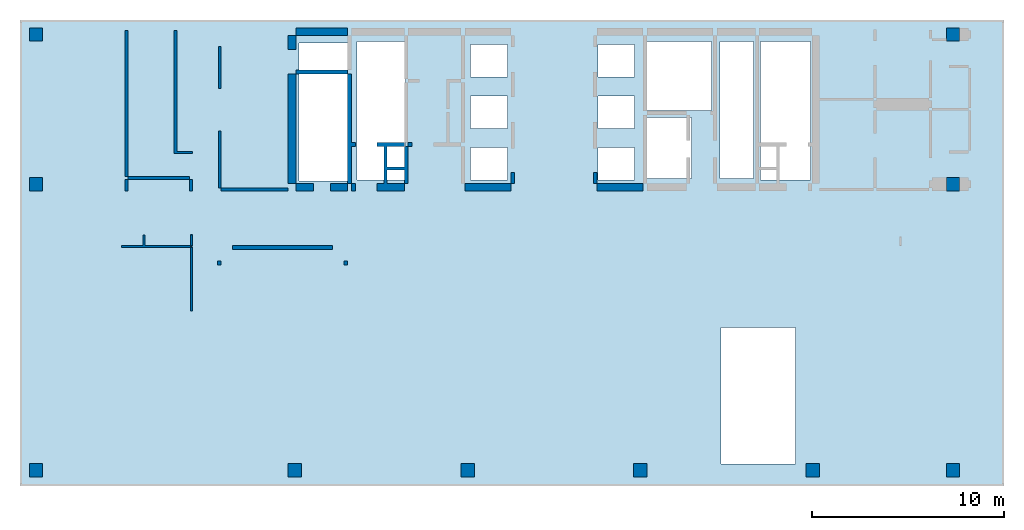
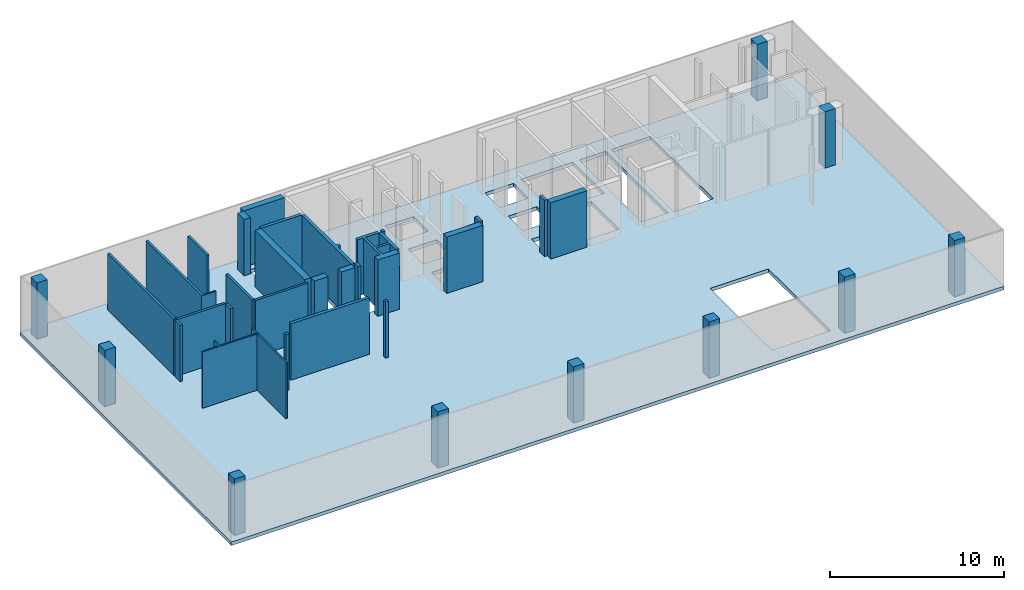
# One storey, part 1 of 4: 28 walls, 10 columns, 1 slab.
"""IFC4 building model written with IfcOpenShell, lengths in millimetres."""

from ifc_helpers import new_model, si_unit, frame, origin, place, context, project, spatial, triangles, element, save


model = new_model("IFC4")

# Units and contexts
model_context = context("Model", 3, precision=0.001, world=origin())
ifc_project = project(units=[si_unit("LENGTHUNIT", "METRE", prefix="MILLI"), si_unit("AREAUNIT", "SQUARE_METRE"), si_unit("VOLUMEUNIT", "CUBIC_METRE")], contexts=[model_context])

# Site, building, storey
site_placement = place(None, origin())
site = spatial("IfcSite", under=ifc_project, at=site_placement, Name="Site", CompositionType="ELEMENT")
building_placement = place(site_placement, origin())
building = spatial("IfcBuilding", under=site, at=building_placement, Name="INNOCEAN", CompositionType="ELEMENT")
storey_placement = place(building_placement, frame((0.0, 0.0, 63800.0)))
storey = spatial("IfcBuildingStorey", under=building, at=storey_placement, Name="F15", CompositionType="ELEMENT", Elevation=63800.0)

# Columns
column_1_placement = place(storey_placement, origin())
element("IfcColumn", 1, at=column_1_placement, inside=storey, Name="F15_Columns_F15_001", context=model_context, shape_type="Tessellation", body=[
    triangles([(40114.8, 2023.7, 0.0), (40114.8, 2023.7, 3950.0), (40114.8, 2722.3, 0.0), (40114.8, 2722.3, 3950.0), (40813.0, 2023.7, 3950.0), (40813.0, 2023.7, 0.0), (40813.0, 2722.3, 0.0), (40813.0, 2722.3, 3950.0)], [[1, 2, 3], [3, 2, 4], [5, 6, 7], [5, 7, 8], [6, 5, 1], [1, 5, 2], [8, 7, 3], [8, 3, 4], [3, 7, 1], [1, 7, 6], [8, 4, 2], [8, 2, 5]], closed=True),
])
column_2_placement = place(storey_placement, origin())
element("IfcColumn", 2, at=column_2_placement, inside=storey, Name="F15_Columns_F15_002", context=model_context, shape_type="Tessellation", body=[
    triangles([(47413.4, 24721.0, 0.0), (47413.4, 24721.0, 3950.0), (47413.4, 25419.5, 0.0), (47413.4, 25419.5, 3950.0), (48111.6, 24721.0, 3950.0), (48111.6, 24721.0, 0.0), (48111.6, 25419.5, 0.0), (48111.6, 25419.5, 3950.0)], [[1, 2, 3], [3, 2, 4], [5, 6, 7], [5, 7, 8], [6, 5, 1], [1, 5, 2], [8, 7, 3], [8, 3, 4], [1, 3, 6], [3, 7, 6], [4, 2, 5], [8, 4, 5]], closed=True),
])
column_3_placement = place(storey_placement, origin())
element("IfcColumn", 3, at=column_3_placement, inside=storey, Name="F15_Columns_F15_003", context=model_context, shape_type="Tessellation", body=[
    triangles([(47413.4, 16922.4, 0.0), (47413.4, 16922.4, 3950.0), (47413.4, 17620.9, 0.0), (47413.4, 17620.9, 3950.0), (48111.6, 16922.4, 3950.0), (48111.6, 16922.4, 0.0), (48111.6, 17620.9, 0.0), (48111.6, 17620.9, 3950.0)], [[1, 2, 3], [3, 2, 4], [5, 6, 7], [5, 7, 8], [6, 5, 1], [1, 5, 2], [8, 7, 3], [8, 3, 4], [1, 3, 6], [3, 7, 6], [4, 2, 5], [8, 4, 5]], closed=True),
])
column_4_placement = place(storey_placement, origin())
element("IfcColumn", 4, at=column_4_placement, inside=storey, Name="F15_Columns_F15_004", context=model_context, shape_type="Tessellation", body=[
    triangles([(13129.0, 2023.7, 0.0), (13129.0, 2023.7, 3950.0), (13129.0, 2722.3, 0.0), (13129.0, 2722.3, 3950.0), (13827.2, 2023.7, 3950.0), (13827.2, 2023.7, 0.0), (13827.2, 2722.3, 0.0), (13827.2, 2722.3, 3950.0)], [[1, 2, 3], [3, 2, 4], [5, 6, 7], [5, 7, 8], [6, 5, 1], [1, 5, 2], [8, 7, 3], [8, 3, 4], [3, 7, 1], [1, 7, 6], [8, 4, 2], [8, 2, 5]], closed=True),
])
column_5_placement = place(storey_placement, origin())
element("IfcColumn", 5, at=column_5_placement, inside=storey, Name="F15_Columns_F15_005", context=model_context, shape_type="Tessellation", body=[
    triangles([(47413.4, 2023.7, 0.0), (47413.4, 2023.7, 3950.0), (47413.4, 2722.3, 0.0), (47413.4, 2722.3, 3950.0), (48111.6, 2023.7, 3950.0), (48111.6, 2023.7, 0.0), (48111.6, 2722.3, 0.0), (48111.6, 2722.3, 3950.0)], [[1, 2, 3], [3, 2, 4], [5, 6, 7], [5, 7, 8], [6, 5, 1], [1, 5, 2], [8, 7, 3], [8, 3, 4], [3, 7, 1], [1, 7, 6], [8, 4, 2], [8, 2, 5]], closed=True),
])
column_6_placement = place(storey_placement, origin())
element("IfcColumn", 6, at=column_6_placement, inside=storey, Name="F15_Columns_F15_006", context=model_context, shape_type="Tessellation", body=[
    triangles([(-363.9, 2023.7, 0.0), (-363.9, 2023.7, 3950.0), (-363.9, 2722.3, 0.0), (-363.9, 2722.3, 3950.0), (334.3, 2023.7, 3950.0), (334.3, 2023.7, 0.0), (334.3, 2722.3, 0.0), (334.3, 2722.3, 3950.0)], [[1, 2, 3], [3, 2, 4], [5, 6, 7], [5, 7, 8], [6, 5, 1], [1, 5, 2], [8, 7, 3], [8, 3, 4], [3, 7, 1], [1, 7, 6], [8, 4, 2], [8, 2, 5]], closed=True),
])
column_7_placement = place(storey_placement, origin())
element("IfcColumn", 7, at=column_7_placement, inside=storey, Name="F15_Columns_F15_007", context=model_context, shape_type="Tessellation", body=[
    triangles([(-363.9, 24721.0, 0.0), (-363.9, 24721.0, 3950.0), (-363.9, 25419.5, 0.0), (-363.9, 25419.5, 3950.0), (334.3, 24721.0, 3950.0), (334.3, 24721.0, 0.0), (334.3, 25419.5, 0.0), (334.3, 25419.5, 3950.0)], [[1, 2, 3], [3, 2, 4], [5, 6, 7], [5, 7, 8], [6, 5, 1], [1, 5, 2], [8, 7, 3], [8, 3, 4], [3, 7, 1], [1, 7, 6], [8, 4, 2], [8, 2, 5]], closed=True),
])
column_8_placement = place(storey_placement, origin())
element("IfcColumn", 8, at=column_8_placement, inside=storey, Name="F15_Columns_F15_008", context=model_context, shape_type="Tessellation", body=[
    triangles([(31128.0, 2023.7, 0.0), (31128.0, 2023.7, 3950.0), (31128.0, 2722.3, 0.0), (31128.0, 2722.3, 3950.0), (31826.2, 2023.7, 3950.0), (31826.2, 2023.7, 0.0), (31826.2, 2722.3, 0.0), (31826.2, 2722.3, 3950.0)], [[1, 2, 3], [3, 2, 4], [5, 6, 7], [5, 7, 8], [6, 5, 1], [1, 5, 2], [8, 7, 3], [8, 3, 4], [3, 7, 1], [1, 7, 6], [8, 4, 2], [8, 2, 5]], closed=True),
])
column_9_placement = place(storey_placement, origin())
element("IfcColumn", 9, at=column_9_placement, inside=storey, Name="F15_Columns_F15_009", context=model_context, shape_type="Tessellation", body=[
    triangles([(22128.5, 2023.7, 0.0), (22128.5, 2023.7, 3950.0), (22128.5, 2722.3, 0.0), (22128.5, 2722.3, 3950.0), (22826.7, 2023.7, 3950.0), (22826.7, 2023.7, 0.0), (22826.7, 2722.3, 0.0), (22826.7, 2722.3, 3950.0)], [[1, 2, 3], [3, 2, 4], [5, 6, 7], [5, 7, 8], [6, 5, 1], [1, 5, 2], [8, 7, 3], [8, 3, 4], [3, 7, 1], [1, 7, 6], [8, 4, 2], [8, 2, 5]], closed=True),
])
column_10_placement = place(storey_placement, origin())
element("IfcColumn", 10, at=column_10_placement, inside=storey, Name="F15_Columns_F15_010", context=model_context, shape_type="Tessellation", body=[
    triangles([(-363.9, 16922.4, 0.0), (-363.9, 16922.4, 3950.0), (-363.9, 17620.9, 0.0), (-363.9, 17620.9, 3950.0), (334.3, 16922.4, 3950.0), (334.3, 16922.4, 0.0), (334.3, 17620.9, 0.0), (334.3, 17620.9, 3950.0)], [[1, 2, 3], [3, 2, 4], [5, 6, 7], [5, 7, 8], [6, 5, 1], [1, 5, 2], [8, 7, 3], [8, 3, 4], [3, 7, 1], [1, 7, 6], [8, 4, 2], [8, 2, 5]], closed=True),
])

# Slab
slab_placement = place(storey_placement, origin())
element("IfcSlab", 11, at=slab_placement, inside=storey, Name="F15_Slab_F15_001", context=model_context, shape_type="Tessellation", body=[
    triangles([(-846.215139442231, 25825.974025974, 0.0), (50420.3187250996, 25825.974025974, -250.0), (-846.215139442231, 25825.974025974, -250.0), (50420.3187250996, 25825.974025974, 0.0), (-846.215139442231, 1552.38095238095, 0.0), (-846.215139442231, 1552.38095238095, -250.0), (50420.3187250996, 1552.38095238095, 0.0), (50420.3187250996, 1552.38095238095, -250.0), (39560.5577689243, 9808.22510822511, 0.0), (35682.0717131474, 9808.22510822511, 0.0), (35682.0717131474, 9808.22510822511, -250.0), (39560.5577689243, 9808.22510822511, -250.0), (39560.5577689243, 2681.38528138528, 0.0), (39560.5577689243, 2681.38528138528, -250.0), (35682.0717131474, 2681.38528138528, 0.0), (35682.0717131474, 2681.38528138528, -250.0), (34130.6772908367, 20745.4545454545, -250.0), (31733.0677290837, 20745.4545454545, 0.0), (31733.0677290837, 20745.4545454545, -250.0), (34130.6772908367, 20745.4545454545, 0.0), (31733.0677290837, 17570.1298701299, 0.0), (31733.0677290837, 17570.1298701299, -250.0), (34130.6772908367, 17570.1298701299, 0.0), (34130.6772908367, 17570.1298701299, -250.0), (31168.9243027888, 19193.0735930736, 0.0), (29264.9402390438, 19193.0735930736, 0.0), (29264.9402390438, 19193.0735930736, -250.0), (31168.9243027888, 19193.0735930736, -250.0), (29264.9402390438, 17499.5670995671, 0.0), (29264.9402390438, 17499.5670995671, -250.0), (31168.9243027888, 17499.5670995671, 0.0), (31168.9243027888, 17499.5670995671, -250.0), (40336.2549800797, 24696.9696969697, -250.0), (37727.0916334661, 24696.9696969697, 0.0), (37727.0916334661, 24696.9696969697, -250.0), (40336.2549800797, 24696.9696969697, 0.0), (37727.0916334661, 17499.5670995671, 0.0), (37727.0916334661, 17499.5670995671, -250.0), (40336.2549800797, 17499.5670995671, 0.0), (40336.2549800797, 17499.5670995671, -250.0), (37374.5019920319, 24696.9696969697, 0.0), (35611.5537848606, 24696.9696969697, 0.0), (35611.5537848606, 24696.9696969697, -250.0), (37374.5019920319, 24696.9696969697, -250.0), (35611.5537848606, 17570.1298701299, 0.0), (35611.5537848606, 17570.1298701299, -250.0), (37374.5019920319, 17570.1298701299, 0.0), (37374.5019920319, 17570.1298701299, -250.0), (31168.9243027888, 21874.4588744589, 0.0), (29264.9402390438, 21874.4588744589, 0.0), (29264.9402390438, 21874.4588744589, -250.0), (31168.9243027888, 21874.4588744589, -250.0), (29264.9402390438, 20180.9523809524, 0.0), (29264.9402390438, 20180.9523809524, -250.0), (31168.9243027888, 20180.9523809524, 0.0), (31168.9243027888, 20180.9523809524, -250.0), (35188.4462151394, 24696.9696969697, 0.0), (31733.0677290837, 24696.9696969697, 0.0), (31733.0677290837, 24696.9696969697, -250.0), (35188.4462151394, 24696.9696969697, -250.0), (31733.0677290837, 21098.2683982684, 0.0), (31733.0677290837, 21098.2683982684, -250.0), (35188.4462151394, 21098.2683982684, 0.0), (35188.4462151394, 21098.2683982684, -250.0), (31168.9243027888, 24555.8441558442, 0.0), (29264.9402390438, 24555.8441558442, 0.0), (29264.9402390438, 24555.8441558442, -250.0), (31168.9243027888, 24555.8441558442, -250.0), (29264.9402390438, 22862.3376623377, 0.0), (29264.9402390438, 22862.3376623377, -250.0), (31168.9243027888, 22862.3376623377, 0.0), (31168.9243027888, 22862.3376623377, -250.0), (24540.2390438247, 19193.0735930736, -250.0), (22636.2549800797, 19193.0735930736, 0.0), (22636.2549800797, 19193.0735930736, -250.0), (24540.2390438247, 19193.0735930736, 0.0), (22636.2549800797, 17499.5670995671, 0.0), (22636.2549800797, 17499.5670995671, -250.0), (24540.2390438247, 17499.5670995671, 0.0), (24540.2390438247, 17499.5670995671, -250.0), (24540.2390438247, 21874.4588744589, -250.0), (22636.2549800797, 21874.4588744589, 0.0), (22636.2549800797, 21874.4588744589, -250.0), (24540.2390438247, 21874.4588744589, 0.0), (22636.2549800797, 20180.9523809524, 0.0), (22636.2549800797, 20180.9523809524, -250.0), (24540.2390438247, 20180.9523809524, 0.0), (24540.2390438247, 20180.9523809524, -250.0), (24540.2390438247, 24555.8441558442, -250.0), (22636.2549800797, 24555.8441558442, 0.0), (22636.2549800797, 24555.8441558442, -250.0), (24540.2390438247, 24555.8441558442, 0.0), (22636.2549800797, 22862.3376623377, 0.0), (22636.2549800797, 22862.3376623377, -250.0), (24540.2390438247, 22862.3376623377, 0.0), (24540.2390438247, 22862.3376623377, -250.0), (19251.3944223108, 24696.9696969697, 0.0), (16712.7490039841, 24696.9696969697, 0.0), (16712.7490039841, 24696.9696969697, -250.0), (19251.3944223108, 24696.9696969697, -250.0), (16712.7490039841, 17499.5670995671, 0.0), (16712.7490039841, 17499.5670995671, -250.0), (19251.3944223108, 17499.5670995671, 0.0), (19251.3944223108, 17499.5670995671, -250.0), (16219.1235059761, 24626.4069264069, 0.0), (13680.4780876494, 24626.4069264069, 0.0), (13680.4780876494, 24626.4069264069, -250.0), (16219.1235059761, 24626.4069264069, -250.0), (13680.4780876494, 17429.0043290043, 0.0), (13680.4780876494, 17429.0043290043, -250.0), (16219.1235059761, 17429.0043290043, 0.0), (16219.1235059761, 17429.0043290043, -250.0)], [[1, 2, 3], [1, 4, 2], [5, 1, 6], [6, 1, 3], [4, 7, 2], [2, 7, 8], [7, 6, 8], [7, 5, 6], [9, 10, 11], [9, 11, 12], [13, 9, 12], [13, 12, 14], [15, 13, 14], [15, 14, 16], [10, 15, 16], [10, 16, 11], [17, 18, 19], [20, 18, 17], [18, 21, 22], [18, 22, 19], [23, 20, 17], [23, 17, 24], [22, 23, 24], [21, 23, 22], [25, 26, 27], [25, 27, 28], [26, 29, 30], [26, 30, 27], [31, 25, 28], [31, 28, 32], [29, 31, 32], [29, 32, 30], [33, 34, 35], [36, 34, 33], [34, 37, 38], [34, 38, 35], [39, 36, 33], [39, 33, 40], [38, 39, 40], [37, 39, 38], [41, 42, 43], [41, 43, 44], [42, 45, 46], [42, 46, 43], [47, 41, 44], [47, 44, 48], [45, 47, 48], [45, 48, 46], [49, 50, 51], [49, 51, 52], [50, 53, 54], [50, 54, 51], [55, 49, 52], [55, 52, 56], [53, 55, 56], [53, 56, 54], [57, 58, 59], [57, 59, 60], [58, 61, 62], [58, 62, 59], [63, 57, 60], [63, 60, 64], [61, 63, 64], [61, 64, 62], [65, 66, 67], [65, 67, 68], [66, 69, 70], [66, 70, 67], [71, 65, 68], [71, 68, 72], [69, 71, 72], [69, 72, 70], [73, 74, 75], [76, 74, 73], [74, 77, 78], [74, 78, 75], [79, 76, 73], [79, 73, 80], [78, 79, 80], [77, 79, 78], [81, 82, 83], [84, 82, 81], [82, 85, 86], [82, 86, 83], [87, 84, 81], [87, 81, 88], [86, 87, 88], [85, 87, 86], [89, 90, 91], [92, 90, 89], [90, 93, 94], [90, 94, 91], [95, 92, 89], [95, 89, 96], [94, 95, 96], [93, 95, 94], [97, 98, 99], [97, 99, 100], [98, 101, 102], [98, 102, 99], [103, 97, 100], [103, 100, 104], [101, 103, 104], [101, 104, 102], [105, 106, 107], [105, 107, 108], [106, 109, 110], [106, 110, 107], [111, 105, 108], [111, 108, 112], [109, 111, 112], [109, 112, 110], [13, 15, 7], [7, 9, 13], [4, 39, 7], [7, 39, 9], [9, 37, 10], [39, 37, 9], [37, 47, 10], [47, 45, 10], [45, 23, 10], [4, 36, 39], [23, 21, 10], [21, 31, 10], [63, 20, 45], [45, 20, 23], [21, 25, 31], [31, 29, 10], [25, 18, 55], [18, 61, 55], [20, 61, 18], [42, 57, 63], [55, 26, 25], [61, 49, 55], [55, 53, 26], [61, 71, 49], [10, 79, 15], [29, 79, 10], [58, 65, 71], [71, 69, 49], [49, 69, 50], [29, 76, 79], [26, 76, 29], [53, 76, 26], [79, 77, 15], [58, 66, 65], [50, 87, 53], [53, 87, 76], [50, 84, 87], [87, 85, 76], [76, 85, 74], [77, 103, 15], [74, 103, 77], [85, 103, 74], [50, 95, 84], [69, 95, 50], [95, 82, 84], [85, 82, 103], [66, 92, 69], [69, 92, 95], [95, 93, 82], [103, 111, 15], [101, 111, 103], [111, 5, 15], [111, 109, 5], [90, 97, 93], [82, 97, 103], [93, 97, 82], [98, 105, 101], [101, 105, 111], [98, 106, 105], [106, 1, 109], [109, 1, 5], [4, 1, 36], [36, 1, 34], [34, 1, 41], [41, 1, 42], [42, 1, 57], [57, 1, 58], [58, 1, 66], [66, 1, 92], [92, 1, 90], [90, 1, 97], [97, 1, 98], [98, 1, 106], [5, 7, 15], [21, 18, 25], [45, 42, 63], [41, 47, 34], [34, 47, 37], [61, 58, 71], [63, 61, 20], [16, 14, 8], [12, 8, 14], [40, 2, 8], [40, 8, 12], [38, 12, 11], [38, 40, 12], [48, 38, 11], [46, 48, 11], [24, 46, 11], [33, 2, 40], [22, 24, 11], [32, 22, 11], [17, 64, 46], [17, 46, 24], [28, 22, 32], [30, 32, 11], [19, 28, 56], [62, 19, 56], [62, 17, 19], [60, 43, 64], [27, 56, 28], [52, 62, 56], [54, 56, 27], [72, 62, 52], [80, 11, 16], [80, 30, 11], [68, 59, 72], [70, 72, 52], [70, 52, 51], [73, 30, 80], [73, 27, 30], [73, 54, 27], [78, 80, 16], [67, 59, 68], [88, 51, 54], [88, 54, 73], [81, 51, 88], [86, 88, 73], [86, 73, 75], [104, 78, 16], [104, 75, 78], [104, 86, 75], [96, 51, 81], [96, 70, 51], [83, 96, 81], [83, 86, 104], [89, 67, 70], [89, 70, 96], [94, 96, 83], [112, 104, 16], [112, 102, 104], [6, 112, 16], [110, 112, 6], [100, 91, 94], [100, 83, 104], [100, 94, 83], [108, 99, 102], [108, 102, 112], [107, 99, 108], [3, 107, 110], [3, 110, 6], [3, 2, 33], [3, 33, 35], [3, 35, 44], [3, 44, 43], [3, 43, 60], [3, 60, 59], [3, 59, 67], [3, 67, 89], [3, 89, 91], [3, 91, 100], [3, 100, 99], [3, 99, 107], [8, 6, 16], [19, 22, 28], [43, 46, 64], [48, 44, 35], [48, 35, 38], [59, 62, 72], [62, 64, 17]], closed=True),
])

# Walls
wall_1_placement = place(storey_placement, origin())
element("IfcWall", 12, at=wall_1_placement, inside=storey, Name="F15_Walls_F15_001", context=model_context, shape_type="Tessellation", body=[
    triangles([(8140.6, 10673.3, 0.0), (8140.6, 13975.7, 0.0), (8140.6, 13975.7, 3950.0), (8140.6, 10673.3, 3950.0), (8039.0, 10673.3, 0.0), (8039.0, 10673.3, 3950.0), (8039.0, 13975.7, 0.0), (8039.0, 13975.7, 3950.0)], [[1, 2, 3], [1, 3, 4], [5, 1, 4], [5, 4, 6], [7, 5, 6], [7, 6, 8], [2, 7, 8], [2, 8, 3], [7, 2, 1], [7, 1, 5], [3, 8, 4], [4, 8, 6]], closed=True),
])
wall_2_placement = place(storey_placement, origin())
element("IfcWall", 13, at=wall_2_placement, inside=storey, Name="F15_Walls_F15_002", context=model_context, shape_type="Tessellation", body=[
    triangles([(9638.4, 13073.9, 0.0), (9638.4, 13277.1, 0.0), (9638.4, 13277.1, 3950.0), (9638.4, 13073.9, 3950.0), (9435.3, 13073.9, 0.0), (9435.3, 13073.9, 3950.0), (9435.3, 13277.1, 0.0), (9435.3, 13277.1, 3950.0)], [[1, 2, 3], [1, 3, 4], [5, 1, 4], [5, 4, 6], [7, 5, 6], [7, 6, 8], [2, 7, 8], [2, 8, 3], [7, 2, 1], [7, 1, 5], [3, 8, 4], [4, 8, 6]], closed=True),
])
wall_3_placement = place(storey_placement, origin())
element("IfcWall", 14, at=wall_3_placement, inside=storey, Name="F15_Walls_F15_003", context=model_context, shape_type="Tessellation", body=[
    triangles([(16226.2, 13073.9, 0.0), (16226.2, 13277.1, 0.0), (16226.2, 13277.1, 3950.0), (16226.2, 13073.9, 3950.0), (16035.8, 13073.9, 0.0), (16035.8, 13073.9, 3950.0), (16035.8, 13277.1, 0.0), (16035.8, 13277.1, 3950.0)], [[1, 2, 3], [1, 3, 4], [5, 1, 4], [5, 4, 6], [7, 5, 6], [7, 6, 8], [2, 7, 8], [2, 8, 3], [7, 2, 1], [7, 1, 5], [3, 8, 4], [4, 8, 6]], closed=True),
])
wall_4_placement = place(storey_placement, origin())
element("IfcWall", 15, at=wall_4_placement, inside=storey, Name="F15_Walls_F15_004", context=model_context, shape_type="Tessellation", body=[
    triangles([(15426.5, 13874.1, 0.0), (15426.5, 14077.3, 0.0), (15426.5, 14077.3, 3950.0), (15426.5, 13874.1, 3950.0), (10235.0, 13874.1, 0.0), (10235.0, 13874.1, 3950.0), (10235.0, 14077.3, 0.0), (10235.0, 14077.3, 3950.0)], [[1, 2, 3], [1, 3, 4], [5, 1, 4], [5, 4, 6], [7, 5, 6], [7, 6, 8], [2, 7, 8], [2, 8, 3], [5, 2, 1], [7, 2, 5], [3, 6, 4], [3, 8, 6]], closed=True),
])
wall_5_placement = place(storey_placement, origin())
element("IfcWall", 16, at=wall_5_placement, inside=storey, Name="F15_Walls_F15_005", context=model_context, shape_type="Tessellation", body=[
    triangles([(5655.0, 14077.3, 0.0), (5655.0, 14625.0, 0.0), (5655.0, 14625.0, 3950.0), (5655.0, 14077.3, 3950.0), (8039.0, 14077.3, 0.0), (8039.0, 14077.3, 3950.0), (8039.0, 13975.7, 0.0), (8039.0, 13975.7, 3950.0), (4434.2, 13975.7, 0.0), (4434.2, 13975.7, 3950.0), (4434.2, 14077.3, 0.0), (4434.2, 14077.3, 3950.0), (5550.0, 14077.3, 3950.0), (5550.0, 14077.3, 0.0), (5550.0, 14625.0, 0.0), (5550.0, 14625.0, 3950.0)], [[1, 2, 3], [1, 3, 4], [5, 1, 4], [5, 4, 6], [7, 5, 6], [7, 6, 8], [9, 7, 8], [9, 8, 10], [11, 9, 10], [11, 10, 12], [11, 12, 13], [14, 11, 13], [15, 14, 13], [15, 13, 16], [2, 15, 16], [2, 16, 3], [1, 5, 7], [2, 1, 14], [15, 2, 14], [9, 1, 7], [9, 14, 1], [11, 14, 9], [6, 4, 8], [4, 3, 13], [3, 16, 13], [4, 10, 8], [13, 10, 4], [13, 12, 10]], closed=True),
])
wall_6_placement = place(storey_placement, origin())
element("IfcWall", 17, at=wall_6_placement, inside=storey, Name="F15_Walls_F15_006", context=model_context, shape_type="Tessellation", body=[
    triangles([(8140.0, 14623.4, 0.0), (8140.0, 14625.0, 0.0), (8140.0, 14625.0, 3950.0), (8140.0, 14623.4, 3950.0), (8140.6, 14623.4, 0.0), (8140.6, 14623.4, 3950.0), (8140.6, 14077.3, 0.0), (8140.6, 14077.3, 3950.0), (8140.0, 14077.3, 0.0), (8140.0, 14077.3, 3950.0), (8140.0, 14075.0, 0.0), (8140.0, 14075.0, 3950.0), (8040.0, 14075.0, 3950.0), (8040.0, 14075.0, 0.0), (8040.0, 14077.3, 0.0), (8040.0, 14077.3, 3950.0), (8039.0, 14077.3, 0.0), (8039.0, 14077.3, 3950.0), (8039.0, 14623.4, 0.0), (8039.0, 14623.4, 3950.0), (8040.0, 14623.4, 0.0), (8040.0, 14623.4, 3950.0), (8040.0, 14625.0, 0.0), (8040.0, 14625.0, 3950.0)], [[1, 2, 3], [1, 3, 4], [5, 1, 4], [5, 4, 6], [7, 5, 6], [7, 6, 8], [9, 7, 8], [9, 8, 10], [11, 9, 10], [11, 10, 12], [11, 12, 13], [14, 11, 13], [15, 14, 13], [15, 13, 16], [17, 15, 16], [17, 16, 18], [19, 17, 18], [19, 18, 20], [21, 19, 20], [21, 20, 22], [23, 21, 22], [23, 22, 24], [23, 24, 3], [2, 23, 3], [15, 9, 11], [15, 11, 14], [1, 5, 7], [1, 7, 9], [21, 9, 15], [21, 1, 9], [19, 15, 17], [19, 21, 15], [23, 2, 1], [23, 1, 21], [10, 16, 12], [12, 16, 13], [6, 4, 8], [8, 4, 10], [10, 22, 16], [4, 22, 10], [16, 20, 18], [22, 20, 16], [3, 24, 4], [4, 24, 22]], closed=True),
])
wall_7_placement = place(storey_placement, origin())
element("IfcWall", 18, at=wall_7_placement, inside=storey, Name="F15_Walls_F15_007", context=model_context, shape_type="Tessellation", body=[
    triangles([(13129.0, 16922.4, 0.0), (13129.0, 17074.8, 0.0), (13129.0, 17074.8, 3950.0), (13129.0, 16922.4, 3950.0), (9638.4, 16922.4, 3950.0), (9638.4, 16922.4, 0.0), (9638.4, 17074.8, 0.0), (9638.4, 17074.8, 3950.0)], [[1, 2, 3], [1, 3, 4], [1, 4, 5], [6, 1, 5], [7, 6, 5], [7, 5, 8], [7, 8, 3], [2, 7, 3], [7, 2, 1], [7, 1, 6], [3, 8, 4], [4, 8, 5]], closed=True),
])
wall_8_placement = place(storey_placement, origin())
element("IfcWall", 19, at=wall_8_placement, inside=storey, Name="F15_Walls_F15_008", context=model_context, shape_type="Tessellation", body=[
    triangles([(16226.2, 17316.1, 0.0), (16226.2, 17316.1, 3950.0), (16226.2, 16922.4, 3950.0), (16226.2, 16922.4, 0.0), (15337.6, 16922.4, 0.0), (15337.6, 16922.4, 3950.0), (15337.6, 17316.1, 3950.0), (15337.6, 17316.1, 0.0)], [[1, 2, 3], [4, 1, 3], [5, 4, 3], [5, 3, 6], [5, 6, 7], [8, 5, 7], [1, 8, 7], [1, 7, 2], [8, 1, 4], [8, 4, 5], [2, 7, 3], [3, 7, 6]], closed=True),
])
wall_9_placement = place(storey_placement, origin())
element("IfcWall", 20, at=wall_9_placement, inside=storey, Name="F15_Walls_F15_009", context=model_context, shape_type="Tessellation", body=[
    triangles([(14436.4, 17316.1, 0.0), (14436.4, 17316.1, 3950.0), (14436.4, 16922.4, 3950.0), (14436.4, 16922.4, 0.0), (13535.2, 16922.4, 0.0), (13535.2, 16922.4, 3950.0), (13535.2, 17316.1, 3950.0), (13535.2, 17316.1, 0.0)], [[1, 2, 3], [4, 1, 3], [5, 4, 3], [5, 3, 6], [5, 6, 7], [8, 5, 7], [1, 8, 7], [1, 7, 2], [8, 1, 4], [8, 4, 5], [2, 7, 3], [3, 7, 6]], closed=True),
])
wall_10_placement = place(storey_placement, origin())
element("IfcWall", 21, at=wall_10_placement, inside=storey, Name="F15_Walls_F15_010", context=model_context, shape_type="Tessellation", body=[
    triangles([(16632.4, 17316.1, 0.0), (16632.4, 17316.1, 3950.0), (16632.4, 16922.4, 3950.0), (16632.4, 16922.4, 0.0), (16429.3, 16922.4, 3950.0), (16429.3, 16922.4, 0.0), (16429.3, 17316.1, 3950.0), (16429.3, 17316.1, 0.0)], [[1, 2, 3], [4, 1, 3], [4, 3, 5], [6, 4, 5], [6, 5, 7], [8, 6, 7], [8, 7, 2], [1, 8, 2], [8, 1, 4], [8, 4, 6], [2, 7, 3], [3, 7, 5]], closed=True),
])
wall_11_placement = place(storey_placement, origin())
element("IfcWall", 22, at=wall_11_placement, inside=storey, Name="F15_Walls_F15_011", context=model_context, shape_type="Tessellation", body=[
    triangles([(4789.6, 16922.4, 0.0), (4789.6, 17519.3, 0.0), (4789.6, 17519.3, 3950.0), (4789.6, 16922.4, 3950.0), (4637.3, 16922.4, 0.0), (4637.3, 16922.4, 3950.0), (4637.3, 17519.3, 0.0), (4637.3, 17519.3, 3950.0)], [[1, 2, 3], [1, 3, 4], [5, 1, 4], [5, 4, 6], [7, 5, 6], [7, 6, 8], [2, 7, 8], [2, 8, 3], [7, 2, 1], [7, 1, 5], [3, 8, 4], [4, 8, 6]], closed=True),
])
wall_12_placement = place(storey_placement, origin())
element("IfcWall", 23, at=wall_12_placement, inside=storey, Name="F15_Walls_F15_012", context=model_context, shape_type="Tessellation", body=[
    triangles([(8140.6, 16922.4, 0.0), (8140.6, 17519.3, 0.0), (8140.6, 17519.3, 3950.0), (8140.6, 16922.4, 3950.0), (7988.3, 16922.4, 0.0), (7988.3, 16922.4, 3950.0), (7988.3, 17519.3, 0.0), (7988.3, 17519.3, 3950.0)], [[1, 2, 3], [1, 3, 4], [5, 1, 4], [5, 4, 6], [7, 5, 6], [7, 6, 8], [2, 7, 8], [2, 8, 3], [7, 2, 1], [7, 1, 5], [3, 8, 4], [4, 8, 6]], closed=True),
])
wall_13_placement = place(storey_placement, origin())
element("IfcWall", 24, at=wall_13_placement, inside=storey, Name="F15_Walls_F15_013", context=model_context, shape_type="Tessellation", body=[
    triangles([(7988.3, 17519.3, 0.0), (7988.3, 17671.7, 0.0), (7988.3, 17671.7, 3950.0), (7988.3, 17519.3, 3950.0), (4789.6, 17519.3, 0.0), (4789.6, 17519.3, 3950.0), (4789.6, 17671.7, 0.0), (4789.6, 17671.7, 3950.0)], [[1, 2, 3], [1, 3, 4], [5, 1, 4], [5, 4, 6], [7, 5, 6], [7, 6, 8], [2, 7, 8], [2, 8, 3], [7, 2, 1], [7, 1, 5], [3, 8, 4], [4, 8, 6]], closed=True),
])
wall_14_placement = place(storey_placement, origin())
element("IfcWall", 25, at=wall_14_placement, inside=storey, Name="F15_Walls_F15_014", context=model_context, shape_type="Tessellation", body=[
    triangles([(18130.0, 19245.0, 0.0), (18130.0, 17316.1, 0.0), (18130.0, 17316.1, 3950.0), (18130.0, 19245.0, 3950.0), (17749.4, 17316.1, 0.0), (17749.4, 17316.1, 3950.0), (17749.4, 16922.4, 0.0), (17749.4, 16922.4, 3950.0), (19183.7, 16922.4, 0.0), (19183.7, 16922.4, 3950.0), (19183.7, 17316.1, 0.0), (19183.7, 17316.1, 3950.0), (19374.1, 17316.1, 0.0), (19374.1, 17316.1, 3950.0), (19374.1, 19246.7, 0.0), (19374.1, 19246.7, 3950.0), (19183.7, 19246.7, 0.0), (19183.7, 19246.7, 3950.0), (19183.7, 19449.9, 0.0), (19183.7, 19449.9, 3950.0), (17749.4, 19449.9, 0.0), (17749.4, 19449.9, 3950.0), (17749.4, 19246.7, 0.0), (17749.4, 19246.7, 3950.0), (18130.2, 19246.7, 0.0), (18130.2, 19246.7, 3950.0), (18130.2, 19245.0, 0.0), (18130.2, 19245.0, 3950.0), (18282.5, 17316.1, 0.0), (18282.5, 17316.1, 3950.0), (18282.5, 18014.7, 0.0), (18282.5, 18014.7, 3950.0), (19183.7, 18014.7, 0.0), (19183.7, 18014.7, 3950.0), (19183.7, 18167.1, 0.0), (19183.7, 18167.1, 3950.0), (18282.5, 18167.1, 0.0), (18282.5, 18167.1, 3950.0), (18282.5, 19246.7, 0.0), (18282.5, 19246.7, 3950.0)], [[1, 2, 3], [1, 3, 4], [2, 5, 6], [2, 6, 3], [7, 8, 6], [5, 7, 6], [7, 9, 10], [7, 10, 8], [11, 12, 10], [9, 11, 10], [11, 13, 14], [11, 14, 12], [13, 15, 16], [13, 16, 14], [15, 17, 18], [15, 18, 16], [17, 19, 20], [17, 20, 18], [19, 21, 22], [19, 22, 20], [21, 23, 24], [21, 24, 22], [25, 26, 24], [23, 25, 24], [25, 27, 28], [25, 28, 26], [27, 1, 4], [27, 4, 28], [11, 29, 30], [11, 30, 12], [29, 31, 32], [29, 32, 30], [31, 33, 34], [31, 34, 32], [33, 11, 12], [33, 12, 34], [17, 35, 36], [17, 36, 18], [35, 37, 38], [35, 38, 36], [37, 39, 40], [37, 40, 38], [39, 17, 18], [39, 18, 40], [33, 13, 11], [35, 13, 33], [29, 11, 9], [7, 29, 9], [2, 29, 7], [5, 2, 7], [31, 35, 33], [31, 29, 2], [15, 13, 35], [37, 35, 31], [17, 15, 35], [39, 19, 17], [27, 39, 37], [1, 27, 37], [25, 39, 27], [21, 25, 23], [21, 19, 39], [21, 39, 25], [2, 1, 37], [2, 37, 31], [14, 34, 12], [14, 36, 34], [12, 30, 10], [30, 8, 10], [30, 3, 8], [3, 6, 8], [36, 32, 34], [30, 32, 3], [14, 16, 36], [36, 38, 32], [16, 18, 36], [20, 40, 18], [40, 28, 38], [28, 4, 38], [40, 26, 28], [26, 22, 24], [20, 22, 40], [40, 22, 26], [4, 3, 38], [38, 3, 32]], closed=True),
])
wall_15_placement = place(storey_placement, origin())
element("IfcWall", 26, at=wall_15_placement, inside=storey, Name="F15_Walls_F15_015", context=model_context, shape_type="Tessellation", body=[
    triangles([(16429.3, 23019.0, 0.0), (16226.2, 23019.0, 0.0), (16226.2, 23019.0, 3950.0), (16429.3, 23019.0, 3950.0), (16429.3, 19449.9, 0.0), (16429.3, 19449.9, 3950.0), (16632.4, 19449.9, 3950.0), (16632.4, 19449.9, 0.0), (16632.4, 19246.7, 0.0), (16632.4, 19246.7, 3950.0), (16429.3, 19246.7, 3950.0), (16429.3, 19246.7, 0.0), (16429.3, 17316.1, 0.0), (16429.3, 17316.1, 3950.0), (16226.2, 17316.1, 0.0), (16226.2, 17316.1, 3950.0), (16226.2, 19246.7, 0.0), (16226.2, 19246.7, 3950.0), (16226.2, 19449.9, 0.0), (16226.2, 19449.9, 3950.0)], [[1, 2, 3], [1, 3, 4], [5, 1, 4], [5, 4, 6], [5, 6, 7], [8, 5, 7], [9, 8, 7], [9, 7, 10], [9, 10, 11], [12, 9, 11], [13, 12, 11], [13, 11, 14], [15, 13, 14], [15, 14, 16], [17, 15, 16], [17, 16, 18], [19, 17, 18], [19, 18, 20], [2, 19, 20], [2, 20, 3], [17, 12, 13], [17, 13, 15], [5, 8, 9], [5, 9, 12], [19, 5, 12], [19, 12, 17], [1, 5, 19], [2, 1, 19], [11, 18, 14], [14, 18, 16], [7, 6, 10], [10, 6, 11], [6, 20, 11], [11, 20, 18], [6, 4, 20], [4, 3, 20]], closed=True),
])
wall_16_placement = place(storey_placement, origin())
element("IfcWall", 27, at=wall_16_placement, inside=storey, Name="F15_Walls_F15_016", context=model_context, shape_type="Tessellation", body=[
    triangles([(9638.4, 17074.8, 0.0), (9638.4, 20046.9, 0.0), (9638.4, 20046.9, 3950.0), (9638.4, 17074.8, 3950.0), (9486.1, 17074.8, 0.0), (9486.1, 17074.8, 3950.0), (9486.1, 20046.9, 0.0), (9486.1, 20046.9, 3950.0)], [[1, 2, 3], [1, 3, 4], [5, 1, 4], [5, 4, 6], [7, 5, 6], [7, 6, 8], [2, 7, 8], [2, 8, 3], [7, 2, 1], [7, 1, 5], [3, 8, 4], [4, 8, 6]], closed=True),
])
wall_17_placement = place(storey_placement, origin())
element("IfcWall", 28, at=wall_17_placement, inside=storey, Name="F15_Walls_F15_017", context=model_context, shape_type="Tessellation", body=[
    triangles([(7340.9, 25267.1, 0.0), (7188.6, 25267.1, 0.0), (7188.6, 25267.1, 3950.0), (7340.9, 25267.1, 3950.0), (7340.9, 18967.3, 0.0), (7340.9, 18967.3, 3950.0), (8140.6, 18967.3, 0.0), (8140.6, 18967.3, 3950.0), (8140.6, 18865.7, 0.0), (8140.6, 18865.7, 3950.0), (8140.0, 18865.7, 0.0), (8140.0, 18865.7, 3950.0), (8140.0, 18865.0, 3950.0), (8140.0, 18865.0, 0.0), (7340.0, 18865.0, 0.0), (7340.0, 18865.0, 3950.0), (7340.0, 18865.7, 3950.0), (7340.0, 18865.7, 0.0), (7188.6, 18865.7, 0.0), (7188.6, 18865.7, 3950.0)], [[1, 2, 3], [1, 3, 4], [5, 1, 4], [5, 4, 6], [7, 5, 6], [7, 6, 8], [9, 7, 8], [9, 8, 10], [11, 9, 10], [11, 10, 12], [11, 12, 13], [14, 11, 13], [15, 14, 13], [15, 13, 16], [15, 16, 17], [18, 15, 17], [19, 18, 17], [19, 17, 20], [3, 19, 20], [2, 19, 3], [7, 9, 11], [15, 11, 14], [18, 11, 15], [5, 7, 11], [5, 11, 18], [19, 5, 18], [2, 1, 5], [2, 5, 19], [10, 8, 12], [12, 16, 13], [12, 17, 16], [8, 6, 12], [12, 6, 17], [6, 20, 17], [4, 3, 6], [6, 3, 20]], closed=True),
])
wall_18_placement = place(storey_placement, origin())
element("IfcWall", 29, at=wall_18_placement, inside=storey, Name="F15_Walls_F15_018", context=model_context, shape_type="Tessellation", body=[
    triangles([(13535.2, 17316.1, 0.0), (13535.2, 23019.0, 0.0), (13535.2, 23019.0, 3950.0), (13535.2, 17316.1, 3950.0), (13129.0, 17316.1, 3950.0), (13129.0, 17316.1, 0.0), (13129.0, 23019.0, 0.0), (13129.0, 23019.0, 3950.0)], [[1, 2, 3], [1, 3, 4], [1, 4, 5], [6, 1, 5], [7, 6, 5], [7, 5, 8], [7, 8, 3], [2, 7, 3], [7, 2, 1], [7, 1, 6], [3, 8, 4], [4, 8, 5]], closed=True),
])
wall_19_placement = place(storey_placement, origin())
element("IfcWall", 30, at=wall_19_placement, inside=storey, Name="F15_Walls_F15_019", context=model_context, shape_type="Tessellation", body=[
    triangles([(4789.6, 17671.7, 0.0), (4789.6, 25267.1, 0.0), (4789.6, 25267.1, 3950.0), (4789.6, 17671.7, 3950.0), (4637.3, 17671.7, 0.0), (4637.3, 17671.7, 3950.0), (4637.3, 25267.1, 0.0), (4637.3, 25267.1, 3950.0)], [[1, 2, 3], [1, 3, 4], [5, 1, 4], [5, 4, 6], [7, 5, 6], [7, 6, 8], [2, 7, 8], [2, 8, 3], [7, 2, 1], [7, 1, 5], [3, 8, 4], [4, 8, 6]], closed=True),
])
wall_20_placement = place(storey_placement, origin())
element("IfcWall", 31, at=wall_20_placement, inside=storey, Name="F15_Walls_F15_020", context=model_context, shape_type="Tessellation", body=[
    triangles([(16226.2, 23019.0, 0.0), (16226.2, 23222.2, 0.0), (16226.2, 23222.2, 3950.0), (16226.2, 23019.0, 3950.0), (13535.2, 23019.0, 0.0), (13535.2, 23019.0, 3950.0), (13535.2, 23222.2, 0.0), (13535.2, 23222.2, 3950.0)], [[1, 2, 3], [1, 3, 4], [5, 1, 4], [5, 4, 6], [7, 5, 6], [7, 6, 8], [2, 7, 8], [2, 8, 3], [7, 2, 1], [7, 1, 5], [3, 8, 4], [4, 8, 6]], closed=True),
])
wall_21_placement = place(storey_placement, origin())
element("IfcWall", 32, at=wall_21_placement, inside=storey, Name="F15_Walls_F15_021", context=model_context, shape_type="Tessellation", body=[
    triangles([(9638.4, 22244.2, 0.0), (9638.4, 24454.2, 0.0), (9638.4, 24454.2, 3950.0), (9638.4, 22244.2, 3950.0), (9486.1, 22244.2, 0.0), (9486.1, 22244.2, 3950.0), (9486.1, 24454.2, 0.0), (9486.1, 24454.2, 3950.0)], [[1, 2, 3], [1, 3, 4], [5, 1, 4], [5, 4, 6], [7, 5, 6], [7, 6, 8], [2, 7, 8], [2, 8, 3], [7, 2, 1], [7, 1, 5], [3, 8, 4], [4, 8, 6]], closed=True),
])
wall_22_placement = place(storey_placement, origin())
element("IfcWall", 33, at=wall_22_placement, inside=storey, Name="F15_Walls_F15_023", context=model_context, shape_type="Tessellation", body=[
    triangles([(13535.2, 24276.4, 0.0), (13535.2, 25025.8, 0.0), (13535.2, 25025.8, 3950.0), (13535.2, 24276.4, 3950.0), (13129.0, 24276.4, 3950.0), (13129.0, 24276.4, 0.0), (13129.0, 25025.8, 0.0), (13129.0, 25025.8, 3950.0)], [[1, 2, 3], [1, 3, 4], [1, 4, 5], [6, 1, 5], [7, 6, 5], [7, 5, 8], [7, 8, 3], [2, 7, 3], [2, 1, 6], [7, 2, 6], [4, 3, 5], [3, 8, 5]], closed=True),
])
wall_23_placement = place(storey_placement, origin())
element("IfcWall", 34, at=wall_23_placement, inside=storey, Name="F15_Walls_F15_024", context=model_context, shape_type="Tessellation", body=[
    triangles([(13535.2, 25419.5, 0.0), (13535.2, 25025.8, 0.0), (13535.2, 25025.8, 3950.0), (13535.2, 25419.5, 3950.0), (16226.2, 25419.5, 0.0), (16226.2, 25419.5, 3950.0), (16226.2, 25025.8, 0.0), (16226.2, 25025.8, 3950.0)], [[1, 2, 3], [1, 3, 4], [5, 1, 4], [5, 4, 6], [7, 5, 6], [7, 6, 8], [2, 7, 8], [2, 8, 3], [2, 5, 7], [1, 5, 2], [6, 3, 8], [6, 4, 3]], closed=True),
])
wall_24_placement = place(storey_placement, origin())
element("IfcWall", 35, at=wall_24_placement, inside=storey, Name="F15_Walls_F15_026", context=model_context, shape_type="Tessellation", body=[
    triangles([(24730.6, 17316.1, 0.0), (24730.6, 17316.1, 3950.0), (24730.6, 16922.4, 3950.0), (24730.6, 16922.4, 0.0), (22331.6, 16922.4, 0.0), (22331.6, 16922.4, 3950.0), (22331.6, 17316.1, 3950.0), (22331.6, 17316.1, 0.0)], [[1, 2, 3], [4, 1, 3], [5, 4, 3], [5, 3, 6], [5, 6, 7], [8, 5, 7], [1, 8, 7], [1, 7, 2], [8, 1, 4], [8, 4, 5], [2, 7, 3], [3, 7, 6]], closed=True),
])
wall_25_placement = place(storey_placement, origin())
element("IfcWall", 36, at=wall_25_placement, inside=storey, Name="F15_Walls_F15_027", context=model_context, shape_type="Tessellation", body=[
    triangles([(31623.1, 17316.1, 0.0), (31623.1, 17316.1, 3950.0), (31623.1, 16922.4, 3950.0), (31623.1, 16922.4, 0.0), (29224.0, 16922.4, 0.0), (29224.0, 16922.4, 3950.0), (29224.0, 17316.1, 3950.0), (29224.0, 17316.1, 0.0)], [[1, 2, 3], [4, 1, 3], [5, 4, 3], [5, 3, 6], [5, 6, 7], [8, 5, 7], [1, 8, 7], [1, 7, 2], [8, 1, 4], [8, 4, 5], [2, 7, 3], [3, 7, 6]], closed=True),
])
wall_26_placement = place(storey_placement, origin())
element("IfcWall", 37, at=wall_26_placement, inside=storey, Name="F15_Walls_F15_028", context=model_context, shape_type="Tessellation", body=[
    triangles([(24921.0, 17875.0, 0.0), (24921.0, 17875.0, 3950.0), (24921.0, 17316.1, 3950.0), (24921.0, 17316.1, 0.0), (24730.6, 17316.1, 0.0), (24730.6, 17316.1, 3950.0), (24730.6, 17875.0, 3950.0), (24730.6, 17875.0, 0.0)], [[1, 2, 3], [4, 1, 3], [5, 4, 3], [5, 3, 6], [5, 6, 7], [8, 5, 7], [1, 8, 7], [1, 7, 2], [8, 1, 4], [8, 4, 5], [2, 7, 3], [3, 7, 6]], closed=True),
])
wall_27_placement = place(storey_placement, origin())
element("IfcWall", 38, at=wall_27_placement, inside=storey, Name="F15_Walls_F15_029", context=model_context, shape_type="Tessellation", body=[
    triangles([(29224.0, 17875.0, 0.0), (29224.0, 17875.0, 3950.0), (29224.0, 17316.1, 3950.0), (29224.0, 17316.1, 0.0), (29020.9, 17316.1, 0.0), (29020.9, 17316.1, 3950.0), (29020.9, 17875.0, 3950.0), (29020.9, 17875.0, 0.0)], [[1, 2, 3], [4, 1, 3], [5, 4, 3], [5, 3, 6], [5, 6, 7], [8, 5, 7], [1, 8, 7], [1, 7, 2], [8, 1, 4], [8, 4, 5], [2, 7, 3], [3, 7, 6]], closed=True),
])
wall_28_placement = place(storey_placement, origin())
element("IfcWall", 39, at=wall_28_placement, inside=storey, Name="F15_Walls_F15_032", context=model_context, shape_type="Tessellation", body=[
    triangles([(19577.2, 19246.7, 0.0), (19577.2, 19449.9, 0.0), (19577.2, 19449.9, 3950.0), (19577.2, 19246.7, 3950.0), (19374.1, 19246.7, 3950.0), (19374.1, 19246.7, 0.0), (19374.1, 19449.9, 0.0), (19374.1, 19449.9, 3950.0)], [[1, 2, 3], [1, 3, 4], [1, 4, 5], [6, 1, 5], [7, 6, 5], [7, 5, 8], [7, 8, 3], [2, 7, 3], [7, 2, 1], [7, 1, 6], [3, 8, 4], [4, 8, 5]], closed=True),
])

save(model, "model.ifc")
